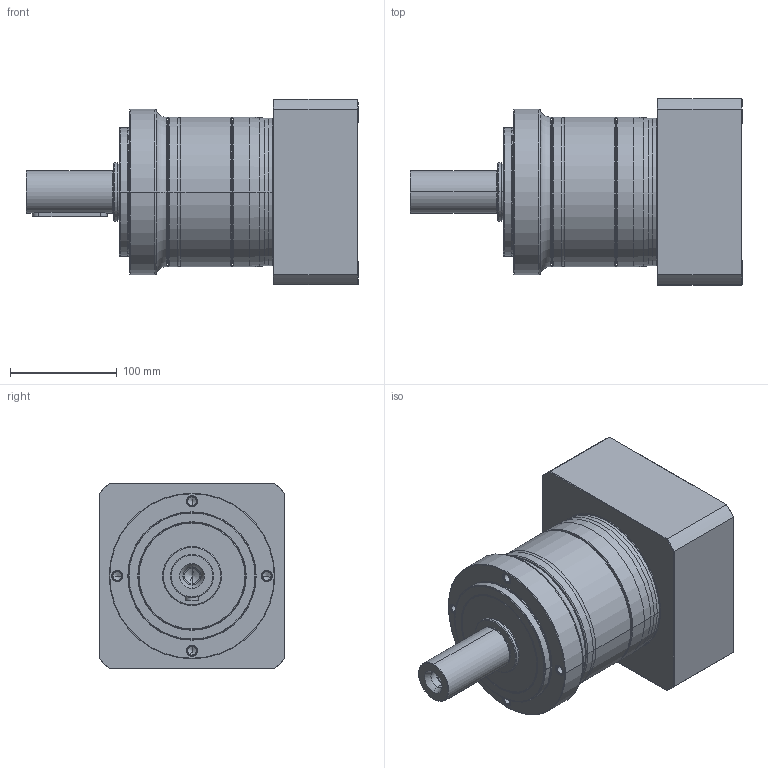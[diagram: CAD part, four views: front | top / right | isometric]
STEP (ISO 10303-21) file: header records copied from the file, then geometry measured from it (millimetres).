
FILE_DESCRIPTION((''),'2;1');
FILE_NAME('PE2-155_1ST_38-P0411900101_ASM','2016-04-26T',('d00435'),(''),'PRO/ENGINEER BY PARAMETRIC TECHNOLOGY CORPORATION, 2008410','PRO/ENGINEER BY PARAMETRIC TECHNOLOGY CORPORATION, 2008410','');
FILE_SCHEMA(('CONFIG_CONTROL_DESIGN'));
Length unit declared in the file: millimetre
Products named in the file (9): P1323510001; P0250500001; P1324500501; P0350501001; P0941505001; P0503900010; P0411900101; P1702600001; PE2-155_1ST_38-P0411900101_ASM
Assembly tree (8 placements, depth 2):
  PE2-155_1ST_38-P0411900101_ASM
    P1323510001
    P0250500001
    P1324500501
    P0350501001
    P0941505001
    P0503900010
    P0411900101
    P1702600001
Bounding box: 311 x 174 x 174 mm (x, y, z)
Volume: 3856781 mm3; surface area: 432317.4 mm2
Topology: 8 solids, 22 shells, 524 faces, 1171 edges, 692 vertices
Faces by surface type: cylinder 166, cone 144, torus 100, plane 96, bspline 18
Entity records: 19305 total; most frequent: CARTESIAN_POINT 7333, DIRECTION 2757, ORIENTED_EDGE 2214, AXIS2_PLACEMENT_3D 1192, EDGE_CURVE 1135, VERTEX_POINT 692, CIRCLE 659, EDGE_LOOP 605
